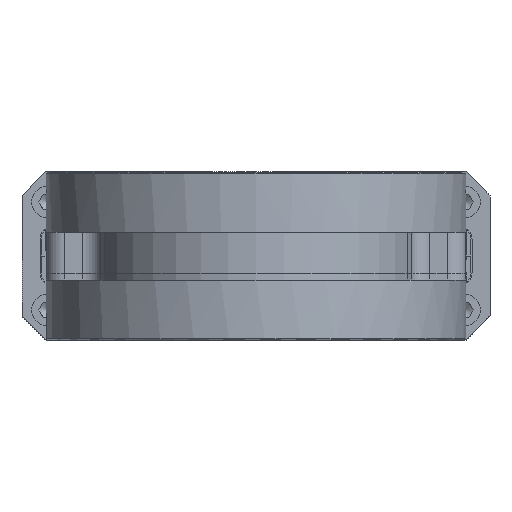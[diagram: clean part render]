
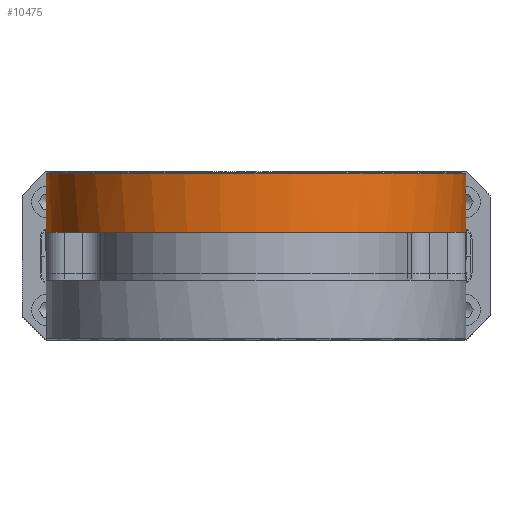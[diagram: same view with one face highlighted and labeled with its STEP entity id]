
A CAD part, front view. The second image highlights one B-rep face of the part: STEP entity #10475.
In plain terms, the highlighted cylindrical face has radius 87.475 mm (diameter 174.95 mm), a full revolution.
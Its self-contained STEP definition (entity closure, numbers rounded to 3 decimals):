
#5300=ELLIPSE('',#24469,174.95,87.475);
#5301=ELLIPSE('',#24471,174.95,87.475);
#5302=ELLIPSE('',#24472,174.95,87.475);
#5303=ELLIPSE('',#24474,174.95,87.475);
#5830=LINE('',#32499,#7000);
#5835=LINE('',#32511,#7005);
#5836=LINE('',#32513,#7006);
#5837=LINE('',#32517,#7007);
#5838=LINE('',#32518,#7008);
#5839=LINE('',#32523,#7009);
#5840=LINE('',#32527,#7010);
#5841=LINE('',#32531,#7011);
#5842=LINE('',#32535,#7012);
#5843=LINE('',#32539,#7013);
#7000=VECTOR('',#26705,1.);
#7005=VECTOR('',#26716,1.);
#7006=VECTOR('',#26717,1.);
#7007=VECTOR('',#26720,1.);
#7008=VECTOR('',#26721,1.);
#7009=VECTOR('',#26726,1.);
#7010=VECTOR('',#26729,1.);
#7011=VECTOR('',#26732,1.);
#7012=VECTOR('',#26735,1.);
#7013=VECTOR('',#26738,1.);
#10475=ADVANCED_FACE('BCT_REF_78804',(#11842,#11843,#11844,#11845),#11477,
 .T.);
#11477=CYLINDRICAL_SURFACE('',#24475,87.475);
#11842=FACE_BOUND('',#12778,.T.);
#11843=FACE_BOUND('',#12779,.T.);
#11844=FACE_BOUND('',#12780,.T.);
#11845=FACE_BOUND('',#12781,.T.);
#12778=EDGE_LOOP('',(#14803));
#12779=EDGE_LOOP('',(#14804,#14805,#14806,#14807,#14808,#14809,#14810,#14811,
#14812,#14813,#14814,#14815,#14816,#14817,#14818,#14819,#14820,#14821,#14822,
#14823));
#12780=EDGE_LOOP('',(#14824,#14825,#14826));
#12781=EDGE_LOOP('',(#14827,#14828,#14829));
#14803=ORIENTED_EDGE('',*,*,#21272,.T.);
#14804=ORIENTED_EDGE('',*,*,#21273,.T.);
#14805=ORIENTED_EDGE('',*,*,#21252,.F.);
#14806=ORIENTED_EDGE('',*,*,#21274,.F.);
#14807=ORIENTED_EDGE('',*,*,#21275,.T.);
#14808=ORIENTED_EDGE('',*,*,#21276,.T.);
#14809=ORIENTED_EDGE('',*,*,#21246,.T.);
#14810=ORIENTED_EDGE('',*,*,#21277,.F.);
#14811=ORIENTED_EDGE('',*,*,#21278,.T.);
#14812=ORIENTED_EDGE('',*,*,#21267,.F.);
#14813=ORIENTED_EDGE('',*,*,#21279,.T.);
#14814=ORIENTED_EDGE('',*,*,#21280,.T.);
#14815=ORIENTED_EDGE('',*,*,#21281,.F.);
#14816=ORIENTED_EDGE('',*,*,#21282,.F.);
#14817=ORIENTED_EDGE('',*,*,#21283,.F.);
#14818=ORIENTED_EDGE('',*,*,#21284,.T.);
#14819=ORIENTED_EDGE('',*,*,#21285,.F.);
#14820=ORIENTED_EDGE('',*,*,#21286,.F.);
#14821=ORIENTED_EDGE('',*,*,#21287,.T.);
#14822=ORIENTED_EDGE('',*,*,#21288,.T.);
#14823=ORIENTED_EDGE('',*,*,#21289,.T.);
#14824=ORIENTED_EDGE('',*,*,#21290,.F.);
#14825=ORIENTED_EDGE('',*,*,#21291,.F.);
#14826=ORIENTED_EDGE('',*,*,#21292,.F.);
#14827=ORIENTED_EDGE('',*,*,#21293,.T.);
#14828=ORIENTED_EDGE('',*,*,#21294,.T.);
#14829=ORIENTED_EDGE('',*,*,#21295,.T.);
#19368=VERTEX_POINT('',#32456);
#19369=VERTEX_POINT('',#32458);
#19374=VERTEX_POINT('',#32468);
#19375=VERTEX_POINT('',#32470);
#19388=VERTEX_POINT('',#32498);
#19389=VERTEX_POINT('',#32500);
#19392=VERTEX_POINT('',#32510);
#19393=VERTEX_POINT('',#32512);
#19394=VERTEX_POINT('',#32514);
#19395=VERTEX_POINT('',#32516);
#19396=VERTEX_POINT('',#32519);
#19397=VERTEX_POINT('',#32522);
#19398=VERTEX_POINT('',#32524);
#19399=VERTEX_POINT('',#32526);
#19400=VERTEX_POINT('',#32528);
#19401=VERTEX_POINT('',#32530);
#19402=VERTEX_POINT('',#32532);
#19403=VERTEX_POINT('',#32534);
#19404=VERTEX_POINT('',#32536);
#19405=VERTEX_POINT('',#32538);
#19406=VERTEX_POINT('',#32540);
#19407=VERTEX_POINT('',#32543);
#19408=VERTEX_POINT('',#32544);
#19409=VERTEX_POINT('',#32546);
#19410=VERTEX_POINT('',#32549);
#19411=VERTEX_POINT('',#32550);
#19412=VERTEX_POINT('',#32552);
#21246=EDGE_CURVE('',#19369,#19368,#23481,.T.);
#21252=EDGE_CURVE('',#19374,#19375,#23484,.T.);
#21267=EDGE_CURVE('',#19388,#19389,#5830,.T.);
#21272=EDGE_CURVE('',#19392,#19392,#23490,.T.);
#21273=EDGE_CURVE('',#19393,#19375,#5835,.T.);
#21274=EDGE_CURVE('',#19394,#19374,#5836,.T.);
#21275=EDGE_CURVE('',#19394,#19395,#23491,.T.);
#21276=EDGE_CURVE('',#19395,#19369,#5837,.T.);
#21277=EDGE_CURVE('',#19396,#19368,#5838,.T.);
#21278=EDGE_CURVE('',#19396,#19389,#23492,.T.);
#21279=EDGE_CURVE('',#19388,#19397,#23493,.T.);
#21280=EDGE_CURVE('',#19397,#19398,#5839,.T.);
#21281=EDGE_CURVE('',#19399,#19398,#23494,.T.);
#21282=EDGE_CURVE('',#19400,#19399,#5840,.T.);
#21283=EDGE_CURVE('',#19401,#19400,#23495,.T.);
#21284=EDGE_CURVE('',#19401,#19402,#5841,.T.);
#21285=EDGE_CURVE('',#19403,#19402,#23496,.T.);
#21286=EDGE_CURVE('BCT_REF_77910',#19404,#19403,#5842,.T.);
#21287=EDGE_CURVE('BCT_REF_77867',#19404,#19405,#23497,.T.);
#21288=EDGE_CURVE('',#19405,#19406,#5843,.T.);
#21289=EDGE_CURVE('',#19406,#19393,#23498,.T.);
#21290=EDGE_CURVE('',#19407,#19408,#5300,.T.);
#21291=EDGE_CURVE('BCT_REF_77995',#19409,#19407,#23499,.T.);
#21292=EDGE_CURVE('',#19408,#19409,#5301,.T.);
#21293=EDGE_CURVE('',#19410,#19411,#5302,.T.);
#21294=EDGE_CURVE('',#19411,#19412,#23500,.T.);
#21295=EDGE_CURVE('',#19412,#19410,#5303,.T.);
#23481=CIRCLE('',#24448,87.475);
#23484=CIRCLE('',#24451,87.475);
#23490=CIRCLE('',#24460,87.475);
#23491=CIRCLE('',#24461,87.475);
#23492=CIRCLE('',#24462,87.475);
#23493=CIRCLE('',#24463,87.475);
#23494=CIRCLE('',#24464,87.475);
#23495=CIRCLE('',#24465,87.475);
#23496=CIRCLE('',#24466,87.475);
#23497=CIRCLE('',#24467,87.475);
#23498=CIRCLE('',#24468,87.475);
#23499=CIRCLE('',#24470,87.475);
#23500=CIRCLE('',#24473,87.475);
#24448=AXIS2_PLACEMENT_3D('',#32457,#26673,#26674);
#24451=AXIS2_PLACEMENT_3D('',#32469,#26682,#26683);
#24460=AXIS2_PLACEMENT_3D('',#32509,#26714,#26715);
#24461=AXIS2_PLACEMENT_3D('',#32515,#26718,#26719);
#24462=AXIS2_PLACEMENT_3D('',#32520,#26722,#26723);
#24463=AXIS2_PLACEMENT_3D('',#32521,#26724,#26725);
#24464=AXIS2_PLACEMENT_3D('',#32525,#26727,#26728);
#24465=AXIS2_PLACEMENT_3D('',#32529,#26730,#26731);
#24466=AXIS2_PLACEMENT_3D('',#32533,#26733,#26734);
#24467=AXIS2_PLACEMENT_3D('',#32537,#26736,#26737);
#24468=AXIS2_PLACEMENT_3D('',#32541,#26739,#26740);
#24469=AXIS2_PLACEMENT_3D('',#32542,#26741,#26742);
#24470=AXIS2_PLACEMENT_3D('',#32545,#26743,#26744);
#24471=AXIS2_PLACEMENT_3D('',#32547,#26745,#26746);
#24472=AXIS2_PLACEMENT_3D('',#32548,#26747,#26748);
#24473=AXIS2_PLACEMENT_3D('',#32551,#26749,#26750);
#24474=AXIS2_PLACEMENT_3D('',#32553,#26751,#26752);
#24475=AXIS2_PLACEMENT_3D('',#32554,#26753,#26754);
#26673=DIRECTION('',(0.,-1.,0.));
#26674=DIRECTION('',(0.,0.,-1.));
#26682=DIRECTION('',(0.,1.,0.));
#26683=DIRECTION('',(0.,0.,-1.));
#26705=DIRECTION('',(0.,1.,0.));
#26714=DIRECTION('',(0.,1.,0.));
#26715=DIRECTION('',(0.,0.,1.));
#26716=DIRECTION('',(0.,1.,0.));
#26717=DIRECTION('',(0.,1.,0.));
#26718=DIRECTION('',(0.,-1.,0.));
#26719=DIRECTION('',(1.,0.,0.));
#26720=DIRECTION('',(0.,1.,0.));
#26721=DIRECTION('',(0.,1.,0.));
#26722=DIRECTION('',(0.,-1.,0.));
#26723=DIRECTION('',(1.,0.,0.));
#26724=DIRECTION('',(0.,-1.,0.));
#26725=DIRECTION('',(1.,0.,0.));
#26726=DIRECTION('',(0.,1.,0.));
#26727=DIRECTION('',(0.,1.,0.));
#26728=DIRECTION('',(1.,0.,0.));
#26729=DIRECTION('',(0.,1.,0.));
#26730=DIRECTION('',(0.,1.,0.));
#26731=DIRECTION('',(1.,0.,0.));
#26732=DIRECTION('',(0.,1.,0.));
#26733=DIRECTION('',(0.,1.,0.));
#26734=DIRECTION('',(1.,0.,0.));
#26735=DIRECTION('',(0.,1.,0.));
#26736=DIRECTION('',(0.,-1.,0.));
#26737=DIRECTION('',(1.,0.,0.));
#26738=DIRECTION('',(0.,1.,0.));
#26739=DIRECTION('',(0.,-1.,0.));
#26740=DIRECTION('',(1.,0.,0.));
#26741=DIRECTION('',(0.,-0.5,0.866));
#26742=DIRECTION('',(0.,0.866,0.5));
#26743=DIRECTION('',(0.,1.,0.));
#26744=DIRECTION('',(0.,0.,-1.));
#26745=DIRECTION('',(0.,-0.5,-0.866));
#26746=DIRECTION('',(0.,0.866,-0.5));
#26747=DIRECTION('',(0.,0.5,0.866));
#26748=DIRECTION('',(0.,0.866,-0.5));
#26749=DIRECTION('',(0.,-1.,0.));
#26750=DIRECTION('',(0.,0.,1.));
#26751=DIRECTION('',(0.,0.5,-0.866));
#26752=DIRECTION('',(0.,0.866,0.5));
#26753=DIRECTION('',(0.,1.,0.));
#26754=DIRECTION('',(0.,0.,1.));
#32456=CARTESIAN_POINT('',(-53.031,-14.7,69.567));
#32457=CARTESIAN_POINT('',(0.,-14.7,0.));
#32458=CARTESIAN_POINT('',(-20.661,-14.7,85.));
#32468=CARTESIAN_POINT('',(20.661,-14.7,85.));
#32469=CARTESIAN_POINT('',(0.,-14.7,0.));
#32470=CARTESIAN_POINT('',(53.031,-14.7,69.567));
#32498=CARTESIAN_POINT('',(-79.,-17.2,37.562));
#32499=CARTESIAN_POINT('',(-79.,-17.2,37.562));
#32500=CARTESIAN_POINT('',(-79.,-16.7,37.562));
#32509=CARTESIAN_POINT('',(0.,-41.7,0.));
#32510=CARTESIAN_POINT('',(0.,-41.7,87.475));
#32511=CARTESIAN_POINT('',(53.031,-16.7,69.567));
#32512=CARTESIAN_POINT('',(53.031,-16.7,69.567));
#32513=CARTESIAN_POINT('',(20.661,-25.2,85.));
#32514=CARTESIAN_POINT('',(20.661,-25.2,85.));
#32515=CARTESIAN_POINT('',(0.,-25.2,0.));
#32516=CARTESIAN_POINT('',(-20.661,-25.2,85.));
#32517=CARTESIAN_POINT('',(-20.661,-25.2,85.));
#32518=CARTESIAN_POINT('',(-53.031,-16.7,69.567));
#32519=CARTESIAN_POINT('',(-53.031,-16.7,69.567));
#32520=CARTESIAN_POINT('',(0.,-16.7,0.));
#32521=CARTESIAN_POINT('',(0.,-17.2,0.));
#32522=CARTESIAN_POINT('',(-87.475,-17.2,0.));
#32523=CARTESIAN_POINT('',(-87.475,-17.2,0.));
#32524=CARTESIAN_POINT('',(-87.475,0.,0.));
#32525=CARTESIAN_POINT('',(0.,0.,0.));
#32526=CARTESIAN_POINT('',(-87.304,0.,-5.469));
#32527=CARTESIAN_POINT('',(-87.304,-17.2,-5.469));
#32528=CARTESIAN_POINT('',(-87.304,-17.2,-5.469));
#32529=CARTESIAN_POINT('',(0.,-17.2,0.));
#32530=CARTESIAN_POINT('',(87.304,-17.2,-5.469));
#32531=CARTESIAN_POINT('',(87.304,-17.2,-5.469));
#32532=CARTESIAN_POINT('',(87.304,0.,-5.469));
#32533=CARTESIAN_POINT('',(0.,0.,0.));
#32534=CARTESIAN_POINT('',(87.475,0.,0.));
#32535=CARTESIAN_POINT('',(87.475,-17.2,0.));
#32536=CARTESIAN_POINT('',(87.475,-17.2,0.));
#32537=CARTESIAN_POINT('',(0.,-17.2,0.));
#32538=CARTESIAN_POINT('',(79.,-17.2,37.562));
#32539=CARTESIAN_POINT('',(79.,-17.2,37.562));
#32540=CARTESIAN_POINT('',(79.,-16.7,37.562));
#32541=CARTESIAN_POINT('',(0.,-16.7,0.));
#32542=CARTESIAN_POINT('',(0.,-30.7,0.));
#32543=CARTESIAN_POINT('',(87.445,-34.7,-2.309));
#32544=CARTESIAN_POINT('',(87.475,-30.7,0.));
#32545=CARTESIAN_POINT('',(0.,-34.7,0.));
#32546=CARTESIAN_POINT('',(87.445,-34.7,2.309));
#32547=CARTESIAN_POINT('',(0.,-30.7,0.));
#32548=CARTESIAN_POINT('',(0.,-30.7,0.));
#32549=CARTESIAN_POINT('',(-87.475,-30.7,0.));
#32550=CARTESIAN_POINT('',(-87.445,-34.7,2.309));
#32551=CARTESIAN_POINT('',(0.,-34.7,0.));
#32552=CARTESIAN_POINT('',(-87.445,-34.7,-2.309));
#32553=CARTESIAN_POINT('',(0.,-30.7,0.));
#32554=CARTESIAN_POINT('',(0.,-42.2,0.));
